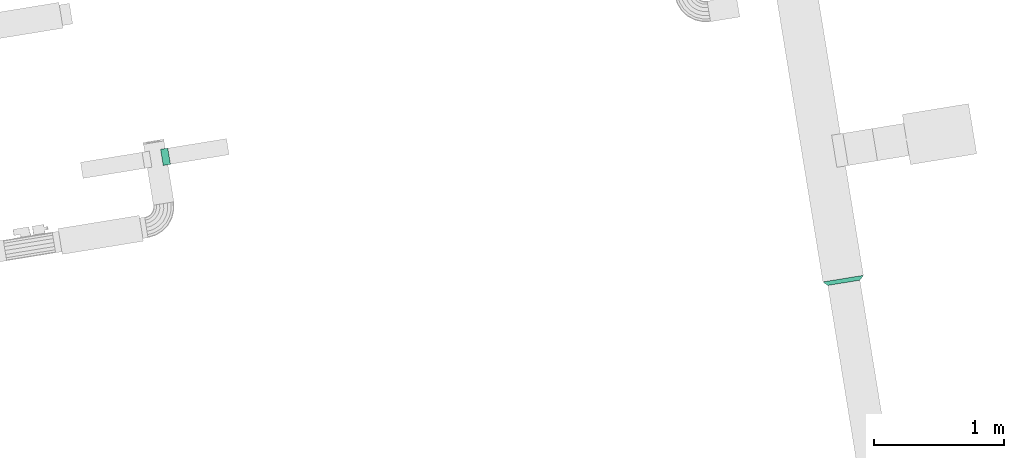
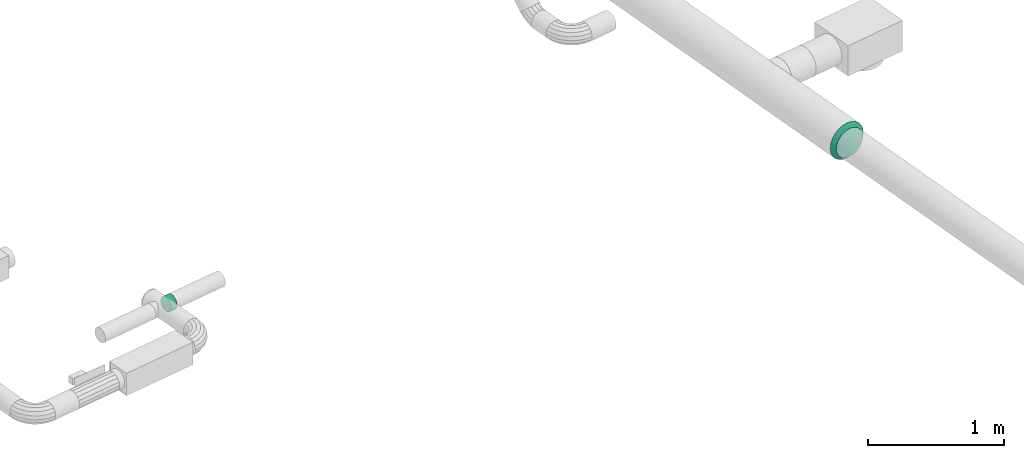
# One storey, part 15 of 19: 2 flow fittings.
"""IFC2X3 building model written with IfcOpenShell, lengths in millimetres."""

from ifc_helpers import new_model, entity, si_unit, converted_unit, derived_unit, direction, frame, origin, origin_with_axes, place, context, subcontext, project, spatial, faceted_brep, source, transform, mapped, material, type_object, element, save


model = new_model("IFC2X3")

# Units and contexts
model_context = context("Model", 3, precision=0.01, world=origin(), true_north=direction((6.12323399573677e-17, 1.0)))
plan_context = context("Plan", 3, precision=1e-05, world=origin_with_axes())
body_context = subcontext(model_context, "Body", "Model", "MODEL_VIEW")
ifc_project = project(units=[converted_unit("PLANEANGLEUNIT", "DEGREE", entity("IfcPositiveLengthMeasure", 0.0174532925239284), si_unit("PLANEANGLEUNIT", "RADIAN"), dimensions=[0, 0, 0, 0, 0, 0, 0]), si_unit("AREAUNIT", "SQUARE_METRE"), si_unit("LENGTHUNIT", "METRE", prefix="MILLI"), si_unit("MASSUNIT", "GRAM", prefix="KILO"), si_unit("POWERUNIT", "WATT"), si_unit("PRESSUREUNIT", "PASCAL", prefix="KILO"), si_unit("FORCEUNIT", "NEWTON", prefix="KILO"), si_unit("ELECTRICVOLTAGEUNIT", "VOLT"), si_unit("ELECTRICCURRENTUNIT", "AMPERE"), si_unit("THERMODYNAMICTEMPERATUREUNIT", "DEGREE_CELSIUS"), si_unit("TIMEUNIT", "SECOND"), si_unit("VOLUMEUNIT", "CUBIC_METRE"), derived_unit("LINEARVELOCITYUNIT", [(si_unit("LENGTHUNIT", "METRE"), 1), (si_unit("TIMEUNIT", "SECOND"), -1)]), derived_unit("VOLUMETRICFLOWRATEUNIT", [(si_unit("VOLUMEUNIT", "CUBIC_METRE"), 1), (si_unit("TIMEUNIT", "SECOND"), -1)]), derived_unit("THERMALTRANSMITTANCEUNIT", [(si_unit("POWERUNIT", "WATT"), 1), (si_unit("THERMODYNAMICTEMPERATUREUNIT", "KELVIN"), -1), (si_unit("AREAUNIT", "SQUARE_METRE"), -1)]), derived_unit("SOUNDPRESSUREUNIT", [(si_unit("PRESSUREUNIT", "PASCAL"), 1)])], contexts=[model_context, plan_context])

# Site, building, storey
site_placement = place(None, frame((5.09380697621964e-08, 5.80416781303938e-08, 0.0), z_axis=(0.0, 0.0, 1.0), x_axis=(-0.160806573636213, 0.986985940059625, 0.0)))
site = spatial("IfcSite", under=ifc_project, at=site_placement, Name="Default", CompositionType="ELEMENT")
building_placement = place(site_placement, frame((0.0, 0.0, 0.0), z_axis=(0.0, 0.0, 1.0), x_axis=(1.0, -2.77555756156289e-17, 0.0)))
building = spatial("IfcBuilding", under=site, at=building_placement, Name="Bygning (endres i Project Information)", CompositionType="ELEMENT")
storey_placement = place(building_placement, frame((0.0, 0.0, 51360.0000000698), z_axis=(0.0, 0.0, 1.0), x_axis=(1.0, -2.77555756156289e-17, 0.0)))
storey = spatial("IfcBuildingStorey", under=building, at=storey_placement, Name="H01-Nivå D+0,36", CompositionType="ELEMENT", Elevation=51360.0000000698)

# Flow fittings
ifc_material_1 = material(Name="3601.001 Tilluft")
duct_fitting_type_1 = type_object("IfcDuctFittingType", Name="magicirc_tapoutlet_001:magicirc_tapoutlet_001", PredefinedType="NOTDEFINED", material=ifc_material_1)
shared_shape_1 = source(origin(), body_context, "Body", "Brep", [
    faceted_brep([(-36.1585390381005, -16.1761903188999, -60.3703641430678), (-36.1585390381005, -31.2499999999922, -54.1265877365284), (-36.1585390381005, -44.1941738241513, -44.1941738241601), (-36.1585390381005, -54.1265877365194, -31.2500000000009), (-36.1585390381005, -60.3703641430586, -16.1761903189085), (-36.1585390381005, -62.4999999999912, 0.0), (-36.1585390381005, -60.3703641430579, 16.176190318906), (-36.1585390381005, -54.1265877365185, 31.2499999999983), (-36.1585390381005, -44.1941738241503, 44.1941738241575), (-36.1585390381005, -31.249999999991, 54.1265877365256), (-36.1585390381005, -16.1761903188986, 60.3703641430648), (-36.1585390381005, 0.0, 62.4999999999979), (-36.1585390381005, 16.1761903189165, 60.3703641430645), (-36.1585390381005, 31.2500000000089, 54.1265877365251), (-36.1585390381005, 44.1941738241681, 44.1941738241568), (-36.1585390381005, 54.1265877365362, 31.2499999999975), (-36.1585390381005, 60.3703641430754, 16.1761903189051), (-36.1585390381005, 62.50000000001, 0.0), (-36.1585390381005, 60.3703641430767, -16.1761903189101), (-36.1585390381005, 54.1265877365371, -31.2500000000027), (-36.1585390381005, 44.1941738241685, -44.194173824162), (-36.1585390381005, 31.250000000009, -54.1265877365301), (-36.1585390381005, 16.1761903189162, -60.3703641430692), (-36.1585390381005, 0.0, -62.5000000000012), (0.0, -16.1761903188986, 60.3703641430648), (20.0, -16.1761903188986, 60.3703641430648), (20.0, 0.0, 62.4999999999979), (0.0, 0.0, 62.4999999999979), (0.0, -31.249999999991, 54.1265877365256), (20.0, -31.249999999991, 54.1265877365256), (0.0, -44.1941738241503, 44.1941738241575), (20.0, -44.1941738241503, 44.1941738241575), (0.0, -60.3703641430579, 16.1761903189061), (20.0, -60.3703641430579, 16.176190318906), (20.0, -54.1265877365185, 31.2499999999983), (0.0, -54.1265877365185, 31.2499999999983), (0.0, -62.4999999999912, 0.0), (20.0, -62.4999999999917, 0.0), (0.0, -60.3703641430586, -16.1761903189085), (20.0, -60.3703641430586, -16.1761903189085), (0.0, -54.1265877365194, -31.2500000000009), (20.0, -54.1265877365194, -31.2500000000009), (0.0, -44.1941738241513, -44.1941738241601), (20.0, -44.1941738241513, -44.1941738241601), (0.0, -16.1761903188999, -60.3703641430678), (20.0, -16.1761903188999, -60.3703641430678), (20.0, -31.2499999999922, -54.1265877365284), (0.0, -31.2499999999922, -54.1265877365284), (0.0, 0.0, -62.5000000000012), (20.0, 0.0, -62.5000000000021), (0.0, 16.1761903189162, -60.3703641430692), (20.0, 16.1761903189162, -60.3703641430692), (0.0, 31.250000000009, -54.1265877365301), (20.0, 31.250000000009, -54.1265877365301), (0.0, 44.1941738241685, -44.194173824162), (20.0, 44.1941738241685, -44.194173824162), (0.0, 60.3703641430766, -16.1761903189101), (20.0, 60.3703641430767, -16.1761903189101), (20.0, 54.1265877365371, -31.2500000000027), (0.0, 54.1265877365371, -31.2500000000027), (0.0, 62.50000000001, 0.0), (20.0, 62.5000000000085, 0.0), (0.0, 60.3703641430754, 16.176190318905), (20.0, 60.3703641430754, 16.1761903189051), (0.0, 54.1265877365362, 31.2499999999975), (20.0, 54.1265877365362, 31.2499999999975), (0.0, 44.1941738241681, 44.1941738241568), (20.0, 44.1941738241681, 44.1941738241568), (0.0, 16.1761903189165, 60.3703641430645), (20.0, 16.1761903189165, 60.3703641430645), (20.0, 31.2500000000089, 54.1265877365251), (0.0, 31.2500000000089, 54.1265877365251)], [[[0, 1, 2, 3, 4, 5, 6, 7, 8, 9, 10, 11, 12, 13, 14, 15, 16, 17, 18, 19, 20, 21, 22, 23]], [[24, 25, 26, 27, 11, 10]], [[28, 29, 25, 24, 10, 9]], [[8, 30, 31, 29, 28, 9]], [[32, 33, 34, 35, 7, 6]], [[36, 37, 33, 32, 6, 5]], [[7, 35, 34, 31, 30, 8]], [[38, 39, 37, 36, 5, 4]], [[40, 41, 39, 38, 4, 3]], [[2, 42, 43, 41, 40, 3]], [[44, 45, 46, 47, 1, 0]], [[48, 49, 45, 44, 0, 23]], [[1, 47, 46, 43, 42, 2]], [[50, 51, 49, 48, 23, 22]], [[52, 53, 51, 50, 22, 21]], [[20, 54, 55, 53, 52, 21]], [[56, 57, 58, 59, 19, 18]], [[60, 61, 57, 56, 18, 17]], [[19, 59, 58, 55, 54, 20]], [[62, 63, 61, 60, 17, 16]], [[64, 65, 63, 62, 16, 15]], [[14, 66, 67, 65, 64, 15]], [[68, 69, 70, 71, 13, 12]], [[27, 26, 69, 68, 12, 11]], [[13, 71, 70, 67, 66, 14]], [[49, 51, 53, 55, 58, 57, 61, 63, 65, 67, 70, 69, 26, 25, 29, 31, 34, 33, 37, 39, 41, 43, 46, 45]]]),
    faceted_brep([(20.0, 0.0, -62.5000000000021), (20.0, 16.1761903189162, -60.3703641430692), (20.0, 31.250000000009, -54.1265877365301), (20.0, 44.1941738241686, -44.194173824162), (20.0, 54.1265877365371, -31.2500000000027), (20.0, 60.3703641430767, -16.1761903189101), (20.0, 62.5000000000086, 0.0), (20.0, 60.3703641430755, 16.1761903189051), (20.0, 54.1265877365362, 31.2499999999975), (20.0, 44.1941738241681, 44.1941738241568), (20.0, 31.250000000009, 54.1265877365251), (20.0, 16.1761903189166, 60.3703641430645), (20.0, 0.0, 62.4999999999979), (20.0, -16.1761903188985, 60.3703641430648), (20.0, -31.2499999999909, 54.1265877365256), (20.0, -44.1941738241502, 44.1941738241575), (20.0, -54.1265877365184, 31.2499999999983), (20.0, -60.3703641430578, 16.176190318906), (20.0, -62.4999999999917, 0.0), (20.0, -60.3703641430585, -16.1761903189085), (20.0, -54.1265877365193, -31.2500000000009), (20.0, -44.1941738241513, -44.1941738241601), (20.0, -31.2499999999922, -54.1265877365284), (20.0, -16.1761903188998, -60.3703641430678), (0.0, 0.0, 62.4999999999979), (-36.1585390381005, 0.0, 62.4999999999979), (-36.1585390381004, -16.1761903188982, 60.3703641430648), (0.0, -16.1761903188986, 60.3703641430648), (-36.1585390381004, -31.2499999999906, 54.1265877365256), (0.0, -31.249999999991, 54.1265877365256), (0.0, -44.1941738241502, 44.1941738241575), (-36.1585390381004, -44.1941738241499, 44.1941738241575), (0.0, -54.1265877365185, 31.2499999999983), (-36.1585390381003, -54.1265877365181, 31.2499999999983), (-36.1585390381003, -60.3703641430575, 16.176190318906), (0.0, -60.3703641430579, 16.176190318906), (-36.1585390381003, -62.4999999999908, 0.0), (0.0, -62.4999999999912, 0.0), (-36.1585390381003, -60.3703641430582, -16.1761903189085), (0.0, -60.3703641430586, -16.1761903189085), (-36.1585390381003, -54.126587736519, -31.2500000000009), (0.0, -54.1265877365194, -31.2500000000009), (0.0, -44.1941738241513, -44.1941738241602), (-36.1585390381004, -44.1941738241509, -44.1941738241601), (0.0, -31.2499999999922, -54.1265877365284), (-36.1585390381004, -31.2499999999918, -54.1265877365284), (-36.1585390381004, -16.1761903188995, -60.3703641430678), (0.0, -16.1761903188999, -60.3703641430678), (-36.1585390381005, 0.0, -62.5000000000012), (0.0, 0.0, -62.5000000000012), (-36.1585390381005, 16.1761903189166, -60.3703641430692), (0.0, 16.1761903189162, -60.3703641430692), (-36.1585390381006, 31.2500000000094, -54.1265877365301), (0.0, 31.250000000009, -54.1265877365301), (0.0, 44.1941738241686, -44.194173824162), (-36.1585390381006, 44.1941738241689, -44.194173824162), (0.0, 54.1265877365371, -31.2500000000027), (-36.1585390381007, 54.1265877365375, -31.2500000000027), (-36.1585390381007, 60.370364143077, -16.1761903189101), (0.0, 60.3703641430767, -16.17619031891), (-36.1585390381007, 62.5000000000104, 0.0), (0.0, 62.50000000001, 0.0), (-36.1585390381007, 60.3703641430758, 16.1761903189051), (0.0, 60.3703641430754, 16.176190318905), (-36.1585390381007, 54.1265877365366, 31.2499999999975), (0.0, 54.1265877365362, 31.2499999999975), (0.0, 44.1941738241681, 44.1941738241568), (-36.1585390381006, 44.1941738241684, 44.1941738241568), (0.0, 31.2500000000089, 54.1265877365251), (-36.1585390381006, 31.2500000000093, 54.1265877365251), (-36.1585390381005, 16.1761903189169, 60.3703641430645), (0.0, 16.1761903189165, 60.3703641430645)], [[[0, 1, 2, 3, 4, 5, 6, 7, 8, 9, 10, 11, 12, 13, 14, 15, 16, 17, 18, 19, 20, 21, 22, 23]], [[13, 12, 24, 25, 26, 27]], [[14, 13, 27, 26, 28, 29]], [[30, 15, 14, 29, 28, 31]], [[17, 16, 32, 33, 34, 35]], [[18, 17, 35, 34, 36, 37]], [[32, 16, 15, 30, 31, 33]], [[19, 18, 37, 36, 38, 39]], [[20, 19, 39, 38, 40, 41]], [[42, 21, 20, 41, 40, 43]], [[23, 22, 44, 45, 46, 47]], [[0, 23, 47, 46, 48, 49]], [[44, 22, 21, 42, 43, 45]], [[1, 0, 49, 48, 50, 51]], [[2, 1, 51, 50, 52, 53]], [[54, 3, 2, 53, 52, 55]], [[5, 4, 56, 57, 58, 59]], [[6, 5, 59, 58, 60, 61]], [[56, 4, 3, 54, 55, 57]], [[7, 6, 61, 60, 62, 63]], [[8, 7, 63, 62, 64, 65]], [[66, 9, 8, 65, 64, 67]], [[11, 10, 68, 69, 70, 71]], [[12, 11, 71, 70, 25, 24]], [[68, 10, 9, 66, 67, 69]], [[46, 45, 43, 40, 38, 36, 34, 33, 31, 28, 26, 25, 70, 69, 67, 64, 62, 60, 58, 57, 55, 52, 50, 48]]]),
    faceted_brep([(-36.1585390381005, -16.1761903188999, -60.3703641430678), (-36.1585390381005, -31.2499999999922, -54.1265877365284), (-36.1585390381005, -44.1941738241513, -44.1941738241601), (-36.1585390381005, -54.1265877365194, -31.2500000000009), (-36.1585390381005, -60.3703641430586, -16.1761903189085), (-36.1585390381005, -62.4999999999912, 0.0), (-36.1585390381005, -60.3703641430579, 16.176190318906), (-36.1585390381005, -54.1265877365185, 31.2499999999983), (-36.1585390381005, -44.1941738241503, 44.1941738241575), (-36.1585390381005, -31.249999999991, 54.1265877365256), (-36.1585390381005, -16.1761903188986, 60.3703641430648), (-36.1585390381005, 0.0, 62.4999999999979), (-36.1585390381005, 16.1761903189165, 60.3703641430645), (-36.1585390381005, 31.2500000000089, 54.1265877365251), (-36.1585390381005, 44.1941738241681, 44.1941738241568), (-36.1585390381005, 54.1265877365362, 31.2499999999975), (-36.1585390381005, 60.3703641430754, 16.1761903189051), (-36.1585390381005, 62.50000000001, 0.0), (-36.1585390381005, 60.3703641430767, -16.1761903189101), (-36.1585390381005, 54.1265877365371, -31.2500000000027), (-36.1585390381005, 44.1941738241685, -44.194173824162), (-36.1585390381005, 31.250000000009, -54.1265877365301), (-36.1585390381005, 16.1761903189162, -60.3703641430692), (-36.1585390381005, 0.0, -62.5000000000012), (0.0, -16.1761903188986, 60.3703641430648), (20.0, -16.1761903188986, 60.3703641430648), (20.0, 0.0, 62.4999999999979), (0.0, 0.0, 62.4999999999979), (0.0, -31.249999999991, 54.1265877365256), (20.0, -31.249999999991, 54.1265877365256), (0.0, -44.1941738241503, 44.1941738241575), (20.0, -44.1941738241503, 44.1941738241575), (0.0, -60.3703641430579, 16.1761903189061), (20.0, -60.3703641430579, 16.176190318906), (20.0, -54.1265877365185, 31.2499999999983), (0.0, -54.1265877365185, 31.2499999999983), (0.0, -62.4999999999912, 0.0), (20.0, -62.4999999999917, 0.0), (0.0, -60.3703641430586, -16.1761903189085), (20.0, -60.3703641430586, -16.1761903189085), (0.0, -54.1265877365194, -31.2500000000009), (20.0, -54.1265877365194, -31.2500000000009), (0.0, -44.1941738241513, -44.1941738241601), (20.0, -44.1941738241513, -44.1941738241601), (0.0, -16.1761903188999, -60.3703641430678), (20.0, -16.1761903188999, -60.3703641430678), (20.0, -31.2499999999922, -54.1265877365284), (0.0, -31.2499999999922, -54.1265877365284), (0.0, 0.0, -62.5000000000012), (20.0, 0.0, -62.5000000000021), (0.0, 16.1761903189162, -60.3703641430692), (20.0, 16.1761903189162, -60.3703641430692), (0.0, 31.250000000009, -54.1265877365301), (20.0, 31.250000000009, -54.1265877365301), (0.0, 44.1941738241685, -44.194173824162), (20.0, 44.1941738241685, -44.194173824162), (0.0, 60.3703641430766, -16.1761903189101), (20.0, 60.3703641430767, -16.1761903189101), (20.0, 54.1265877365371, -31.2500000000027), (0.0, 54.1265877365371, -31.2500000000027), (0.0, 62.50000000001, 0.0), (20.0, 62.5000000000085, 0.0), (0.0, 60.3703641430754, 16.176190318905), (20.0, 60.3703641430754, 16.1761903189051), (0.0, 54.1265877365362, 31.2499999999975), (20.0, 54.1265877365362, 31.2499999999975), (0.0, 44.1941738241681, 44.1941738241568), (20.0, 44.1941738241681, 44.1941738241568), (0.0, 16.1761903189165, 60.3703641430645), (20.0, 16.1761903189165, 60.3703641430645), (20.0, 31.2500000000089, 54.1265877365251), (0.0, 31.2500000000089, 54.1265877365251)], [[[0, 1, 2, 3, 4, 5, 6, 7, 8, 9, 10, 11, 12, 13, 14, 15, 16, 17, 18, 19, 20, 21, 22, 23]], [[24, 25, 26, 27, 11, 10]], [[28, 29, 25, 24, 10, 9]], [[8, 30, 31, 29, 28, 9]], [[32, 33, 34, 35, 7, 6]], [[36, 37, 33, 32, 6, 5]], [[7, 35, 34, 31, 30, 8]], [[38, 39, 37, 36, 5, 4]], [[40, 41, 39, 38, 4, 3]], [[2, 42, 43, 41, 40, 3]], [[44, 45, 46, 47, 1, 0]], [[48, 49, 45, 44, 0, 23]], [[1, 47, 46, 43, 42, 2]], [[50, 51, 49, 48, 23, 22]], [[52, 53, 51, 50, 22, 21]], [[20, 54, 55, 53, 52, 21]], [[56, 57, 58, 59, 19, 18]], [[60, 61, 57, 56, 18, 17]], [[19, 59, 58, 55, 54, 20]], [[62, 63, 61, 60, 17, 16]], [[64, 65, 63, 62, 16, 15]], [[14, 66, 67, 65, 64, 15]], [[68, 69, 70, 71, 13, 12]], [[27, 26, 69, 68, 12, 11]], [[13, 71, 70, 67, 66, 14]], [[49, 51, 53, 55, 58, 57, 61, 63, 65, 67, 70, 69, 26, 25, 29, 31, 34, 33, 37, 39, 41, 43, 46, 45]]]),
])
flow_fitting_1_placement = place(storey_placement, frame((1007878.15440273, -388369.812917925, 3150.0), z_axis=(0.0, 0.0, -1.0), x_axis=(-2.77555756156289e-17, -1.0, 0.0)))
element("IfcFlowFitting", 1, at=flow_fitting_1_placement, inside=storey, type_object=duct_fitting_type_1, material=ifc_material_1, Name="magicirc_tapoutlet_001:magicirc_tapoutlet_001", ObjectType="magicirc_tapoutlet_001:magicirc_tapoutlet_001", context=body_context, shape_type="MappedRepresentation", body=[
    mapped(shared_shape_1, transform((0.0, 0.0, 0.0), scale=1.0)),
])
ifc_material_2 = material(Name="Material_Duct")
duct_fitting_type_2 = type_object("IfcDuctFittingType", Name="magicirc_reduction_NOR:magicirc_reduction_NOR", PredefinedType="NOTDEFINED", material=ifc_material_2)
shared_shape_2 = source(origin(), body_context, "Body", "Brep", [
    faceted_brep([(32.5000000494, -125.000000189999, 0.0), (32.5000000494, -118.882064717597, -38.6271243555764), (32.5000000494, -101.127124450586, -73.4731566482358), (32.5000000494, -73.4731566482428, -101.127124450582), (32.5000000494, -38.6271243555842, -118.882064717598), (32.5000000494, 0.0, -125.000000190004), (32.5000000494, 38.6271243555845, -118.882064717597), (32.5000000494, 73.4731566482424, -101.127124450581), (32.5000000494, 101.127124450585, -73.473156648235), (32.5000000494, 118.882064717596, -38.6271243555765), (32.5000000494, 125.000000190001, 0.0), (32.5000000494, 118.882064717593, 38.6271243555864), (32.5000000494, 101.127124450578, 73.4731566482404), (32.5000000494, 73.4731566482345, 101.127124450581), (32.5000000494, 38.6271243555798, 118.882064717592), (32.5000000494, 0.0, 125.000000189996), (32.5000000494, -38.6271243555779, 118.882064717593), (32.5000000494, -73.4731566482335, 101.127124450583), (32.5000000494, -101.127124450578, 73.4731566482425), (32.5000000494, -118.882064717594, 38.6271243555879), (0.0, 157.500000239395, 0.0), (0.0, 152.13331787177, -40.763999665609), (0.0, 136.399001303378, -78.7500001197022), (0.0, 111.369318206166, -111.369318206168), (0.0, 78.7500001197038, -136.399001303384), (0.0, 40.7639996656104, -152.133317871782), (0.0, 0.0, -157.500000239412), (0.0, -40.7639996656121, -152.133317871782), (0.0, -78.7500001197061, -136.399001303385), (0.0, -111.36931820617, -111.369318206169), (0.0, -136.399001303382, -78.7500001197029), (0.0, -152.133317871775, -40.7639996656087), (0.0, -157.500000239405, 0.0), (0.0, -152.133317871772, 40.763999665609), (0.0, -136.399001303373, 78.7500001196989), (0.0, -111.369318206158, 111.369318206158), (0.0, -78.7500001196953, 136.399001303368), (0.0, -40.7639996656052, 152.13331787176), (0.0, 0.0, 157.500000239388), (0.0, 40.7639996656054, 152.133317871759), (0.0, 78.7500001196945, 136.399001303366), (0.0, 111.369318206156, 111.369318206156), (0.0, 136.39900130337, 78.7500001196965), (0.0, 152.133317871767, 40.7639996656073)], [[[0, 1, 2, 3, 4, 5, 6, 7, 8, 9, 10, 11, 12, 13, 14, 15, 16, 17, 18, 19]], [[20, 21, 22, 23, 24, 25, 26, 27, 28, 29, 30, 31, 32, 33, 34, 35, 36, 37, 38, 39, 40, 41, 42, 43]], [[22, 9, 8]], [[21, 10, 9]], [[6, 24, 7]], [[8, 7, 23]], [[5, 25, 6]], [[10, 21, 20]], [[21, 9, 22]], [[24, 23, 7]], [[25, 24, 6]], [[22, 8, 23]], [[5, 26, 25]], [[26, 5, 27]], [[27, 5, 4]], [[3, 28, 4]], [[30, 2, 1]], [[29, 3, 2]], [[31, 1, 0]], [[4, 28, 27]], [[3, 29, 28]], [[30, 29, 2]], [[1, 31, 30]], [[0, 32, 31]], [[34, 19, 18]], [[33, 0, 19]], [[16, 36, 17]], [[18, 17, 35]], [[15, 37, 16]], [[0, 33, 32]], [[33, 19, 34]], [[36, 35, 17]], [[37, 36, 16]], [[34, 18, 35]], [[15, 38, 37]], [[38, 15, 39]], [[39, 15, 14]], [[13, 40, 14]], [[42, 12, 11]], [[41, 13, 12]], [[43, 11, 10]], [[14, 40, 39]], [[13, 41, 40]], [[42, 41, 12]], [[11, 43, 42]], [[10, 20, 43]]]),
])
flow_fitting_2_placement = place(storey_placement, frame((1006120.0949148, -393341.168778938, 3350.0), z_axis=(0.0, 0.0, 1.0), x_axis=(-1.0, 2.77555756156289e-17, 0.0)))
element("IfcFlowFitting", 2, at=flow_fitting_2_placement, inside=storey, type_object=duct_fitting_type_2, material=ifc_material_2, Name="magicirc_reduction_NOR:magicirc_reduction_NOR", ObjectType="magicirc_reduction_NOR:magicirc_reduction_NOR", context=body_context, shape_type="MappedRepresentation", body=[
    mapped(shared_shape_2, transform((0.0, 0.0, 0.0), scale=1.0)),
])

save(model, "model.ifc")
